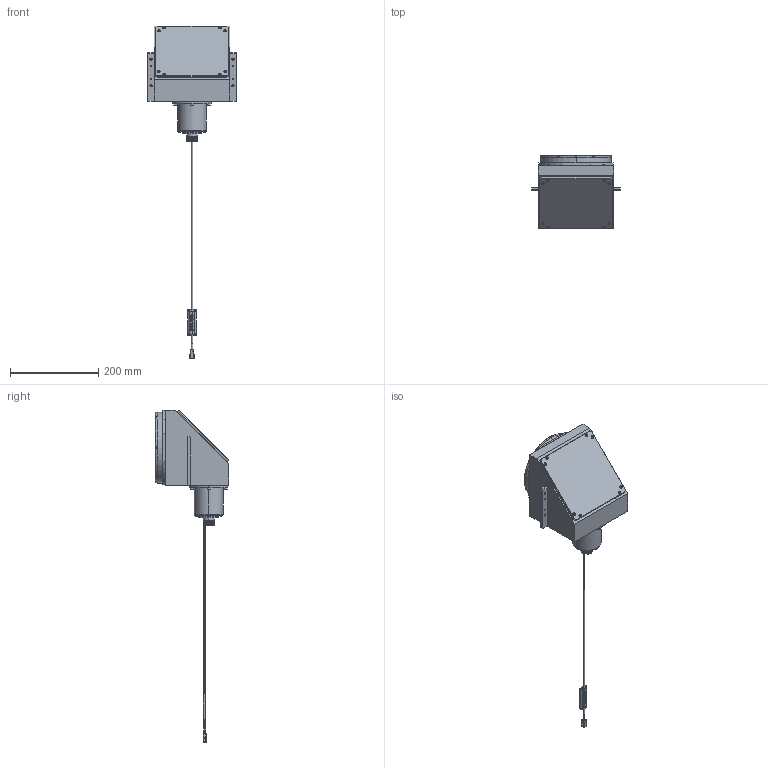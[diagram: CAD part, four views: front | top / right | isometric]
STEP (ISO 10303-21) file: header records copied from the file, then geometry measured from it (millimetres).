
FILE_DESCRIPTION (( 'STEP AP203' ), '1' );
FILE_NAME ('MTI-120-CG-070-L_A22686A0000101A-002.STEP', '2018-04-03T02:34:13', ( '' ), ( '' ), 'SwSTEP 2.0', 'SolidWorks 2014', '' );
FILE_SCHEMA (( 'CONFIG_CONTROL_DESIGN' ));
Length unit declared in the file: millimetre
Products named in the file (1): MTI-120-CG-070-L_A22686A0000101A-002
Bounding box: 200 x 166.6 x 750.4 mm (x, y, z)
Volume: 3556355 mm3; surface area: 188615.9 mm2
Topology: 2 solids, 18 shells, 1179 faces, 3020 edges, 1920 vertices
Faces by surface type: plane 631, cylinder 371, torus 92, cone 83, bspline 2
Entity records: 38898 total; most frequent: CARTESIAN_POINT 9711, DIRECTION 6304, ORIENTED_EDGE 5912, EDGE_CURVE 2956, AXIS2_PLACEMENT_3D 2354, VERTEX_POINT 1920, VECTOR 1596, LINE 1596
